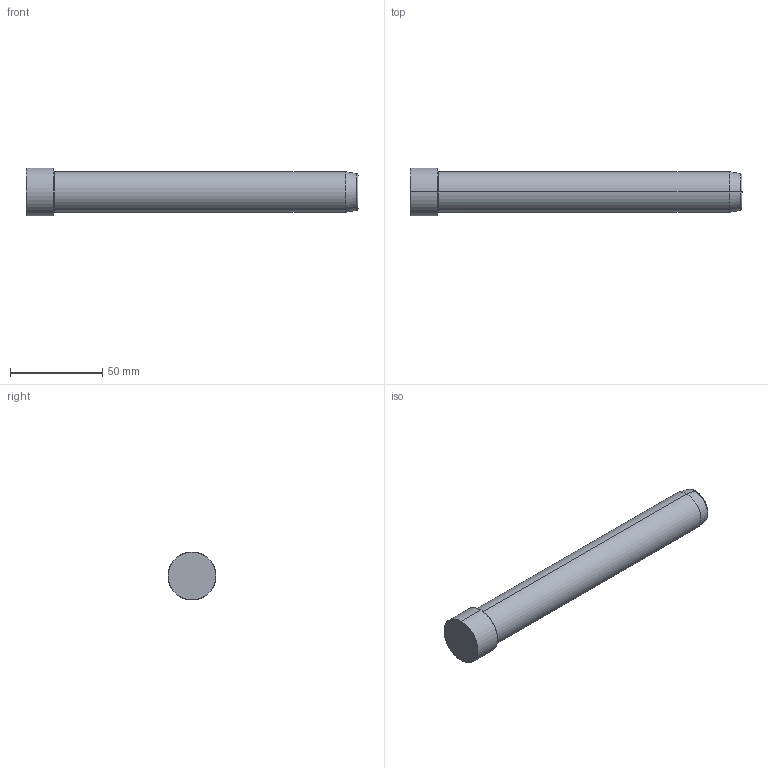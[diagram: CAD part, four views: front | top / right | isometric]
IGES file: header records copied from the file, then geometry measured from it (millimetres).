
Start section: SolidWorks IGES FILE using analytic representation for surfaces
Global section: file name: D:\zzzzz\Delta\D01 D\22\D01 D - 22x180.IGS; native system: SolidWorks 2004 by SolidWorks Corporation; preprocessor: Version 5.3; author: Hkn; date: 080327.145200; units: millimetre
Bounding box: 180 x 26 x 26 mm (x, y, z)
Surface area: 13606.2 mm2 (no closed solid volume)
Topology: 0 solids, 0 shells, 14 faces, 232 edges, 232 vertices
Faces by surface type: revolution 8, bspline 6
